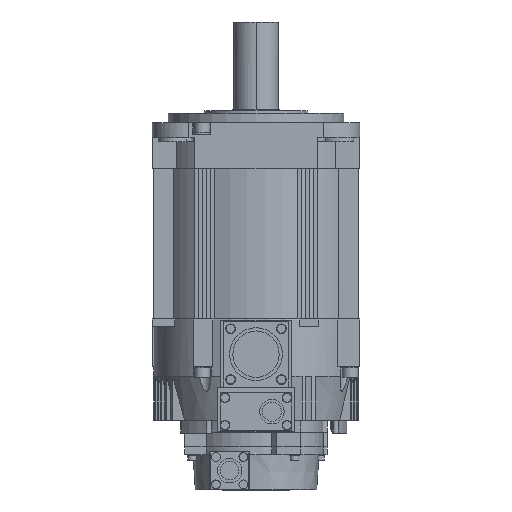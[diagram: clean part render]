
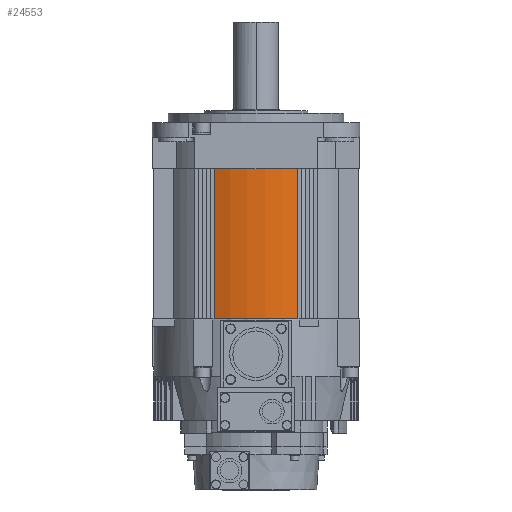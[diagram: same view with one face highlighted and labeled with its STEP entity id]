
A CAD part, front view. The second image highlights one B-rep face of the part: STEP entity #24553.
In plain terms, the highlighted cylindrical face has radius 64.3 mm (diameter 128.6 mm), a partial arc.
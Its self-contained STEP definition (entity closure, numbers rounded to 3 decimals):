
#16357 = CARTESIAN_POINT ( 'NONE',  ( 26.3, -58.675, -304.868 ) ) ;
#16358 = LINE ( 'NONE', #16357, #16416 ) ;
#16409 = CARTESIAN_POINT ( 'NONE',  ( 26.3, -58.675, -29. ) ) ;
#16410 = DIRECTION ( 'NONE',  ( 1., 0., 0. ) ) ;
#16411 = DIRECTION ( 'NONE',  ( 0., 0., 1. ) ) ;
#16412 = CARTESIAN_POINT ( 'NONE',  ( 0., 0., -29. ) ) ;
#16413 = AXIS2_PLACEMENT_3D ( 'NONE', #16412, #16411, #16410 ) ;
#16414 = CIRCLE ( 'NONE', #16413, 64.3 ) ;
#16415 = DIRECTION ( 'NONE',  ( 0., 0., -1. ) ) ;
#16416 = VECTOR ( 'NONE', #16415, 1000. ) ;
#18081 = CARTESIAN_POINT ( 'NONE',  ( 26.3, -58.675, -123. ) ) ;
#18111 = CIRCLE ( 'NONE', #18177, 64.3 ) ;
#18117 = CARTESIAN_POINT ( 'NONE',  ( -26.3, -58.675, -123. ) ) ;
#18174 = DIRECTION ( 'NONE',  ( 1., 0., 0. ) ) ;
#18175 = DIRECTION ( 'NONE',  ( 0., 0., -1. ) ) ;
#18176 = CARTESIAN_POINT ( 'NONE',  ( 0., 0., -123. ) ) ;
#18177 = AXIS2_PLACEMENT_3D ( 'NONE', #18176, #18175, #18174 ) ;
#19179 = CARTESIAN_POINT ( 'NONE',  ( -26.3, -58.675, -29. ) ) ;
#19186 = DIRECTION ( 'NONE',  ( 1., 0., 0. ) ) ;
#19187 = DIRECTION ( 'NONE',  ( 0., 0., 1. ) ) ;
#19188 = AXIS2_PLACEMENT_3D ( 'NONE', #19191, #19187, #19186 ) ;
#19189 = CYLINDRICAL_SURFACE ( 'NONE', #19188, 64.3 ) ;
#19191 = CARTESIAN_POINT ( 'NONE',  ( 0., 0., -304.868 ) ) ;
#19192 = FACE_OUTER_BOUND ( 'NONE', #24558, .T. ) ;
#19241 = DIRECTION ( 'NONE',  ( 0., 0., 1. ) ) ;
#19242 = VECTOR ( 'NONE', #19241, 1000. ) ;
#19243 = CARTESIAN_POINT ( 'NONE',  ( -26.3, -58.675, -304.868 ) ) ;
#19244 = LINE ( 'NONE', #19243, #19242 ) ;
#20574 = EDGE_CURVE ( 'NONE', #20733, #23964, #16358, .T. ) ;
#20689 = EDGE_CURVE ( 'NONE', #24516, #20733, #16414, .T. ) ;
#20733 = VERTEX_POINT ( 'NONE', #16409 ) ;
#20736 = ORIENTED_EDGE ( 'NONE', *, *, #20689, .F. ) ;
#23964 = VERTEX_POINT ( 'NONE', #18081 ) ;
#24014 = VERTEX_POINT ( 'NONE', #18117 ) ;
#24021 = EDGE_CURVE ( 'NONE', #23964, #24014, #18111, .T. ) ;
#24503 = ORIENTED_EDGE ( 'NONE', *, *, #20574, .F. ) ;
#24511 = ORIENTED_EDGE ( 'NONE', *, *, #24021, .F. ) ;
#24516 = VERTEX_POINT ( 'NONE', #19179 ) ;
#24553 = ADVANCED_FACE ( 'NONE', ( #19192 ), #19189, .T. ) ;
#24555 = ORIENTED_EDGE ( 'NONE', *, *, #24557, .F. ) ;
#24557 = EDGE_CURVE ( 'NONE', #24014, #24516, #19244, .T. ) ;
#24558 = EDGE_LOOP ( 'NONE', ( #24555, #24511, #24503, #20736 ) ) ;
